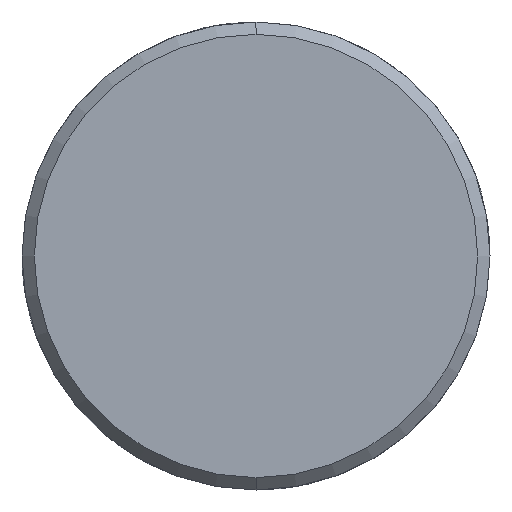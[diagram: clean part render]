
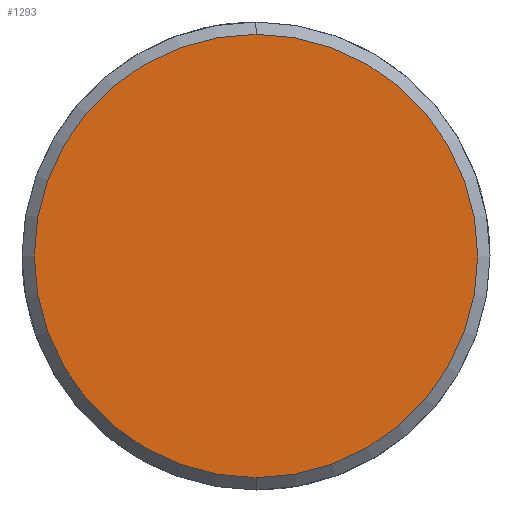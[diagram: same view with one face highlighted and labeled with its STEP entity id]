
A CAD part, left-side view. The second image highlights one B-rep face of the part: STEP entity #1293.
In plain terms, the highlighted planar face has unit normal (-1, 0, 0).
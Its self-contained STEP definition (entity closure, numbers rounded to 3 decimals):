
#1225=CARTESIAN_POINT('Vertex',(-7.,0.,-18.)) ;
#1228=CARTESIAN_POINT('Axis2P3D Location',(-7.,0.,0.)) ;
#1232=CARTESIAN_POINT('Vertex',(-7.,18.,0.)) ;
#1235=CARTESIAN_POINT('Axis2P3D Location',(-7.,0.,0.)) ;
#1239=CARTESIAN_POINT('Vertex',(-7.,0.,18.)) ;
#1261=CARTESIAN_POINT('Axis2P3D Location',(-7.,0.,0.)) ;
#1265=CARTESIAN_POINT('Vertex',(-7.,-18.,0.)) ;
#1268=CARTESIAN_POINT('Axis2P3D Location',(-7.,0.,0.)) ;
#1282=CARTESIAN_POINT('Axis2P3D Location',(-7.,0.,0.)) ;
#1229=DIRECTION('Axis2P3D Direction',(1.,0.,-0.)) ;
#1236=DIRECTION('Axis2P3D Direction',(1.,0.,-0.)) ;
#1262=DIRECTION('Axis2P3D Direction',(1.,0.,-0.)) ;
#1269=DIRECTION('Axis2P3D Direction',(1.,0.,-0.)) ;
#1283=DIRECTION('Axis2P3D Direction',(1.,0.,-0.)) ;
#1284=DIRECTION('Axis2P3D XDirection',(-0.,0.,-1.)) ;
#1230=AXIS2_PLACEMENT_3D('Circle Axis2P3D',#1228,#1229,$) ;
#1237=AXIS2_PLACEMENT_3D('Circle Axis2P3D',#1235,#1236,$) ;
#1263=AXIS2_PLACEMENT_3D('Circle Axis2P3D',#1261,#1262,$) ;
#1270=AXIS2_PLACEMENT_3D('Circle Axis2P3D',#1268,#1269,$) ;
#1285=AXIS2_PLACEMENT_3D('Plane Axis2P3D',#1282,#1283,#1284) ;
#1288=ORIENTED_EDGE('',*,*,#1234,.F.) ;
#1289=ORIENTED_EDGE('',*,*,#1272,.F.) ;
#1290=ORIENTED_EDGE('',*,*,#1267,.F.) ;
#1291=ORIENTED_EDGE('',*,*,#1241,.F.) ;
#1293=ADVANCED_FACE('351-25X36X160',(#1292),#1286,.F.) ;
#1231=CIRCLE('generated circle',#1230,18.) ;
#1238=CIRCLE('generated circle',#1237,18.) ;
#1264=CIRCLE('generated circle',#1263,18.) ;
#1271=CIRCLE('generated circle',#1270,18.) ;
#1234=EDGE_CURVE('',#1226,#1233,#1231,.T.) ;
#1241=EDGE_CURVE('',#1233,#1240,#1238,.T.) ;
#1267=EDGE_CURVE('',#1240,#1266,#1264,.T.) ;
#1272=EDGE_CURVE('',#1266,#1226,#1271,.T.) ;
#1287=EDGE_LOOP('',(#1288,#1289,#1290,#1291)) ;
#1292=FACE_OUTER_BOUND('',#1287,.T.) ;
#1286=PLANE('Plane',#1285) ;
#1226=VERTEX_POINT('',#1225) ;
#1233=VERTEX_POINT('',#1232) ;
#1240=VERTEX_POINT('',#1239) ;
#1266=VERTEX_POINT('',#1265) ;
